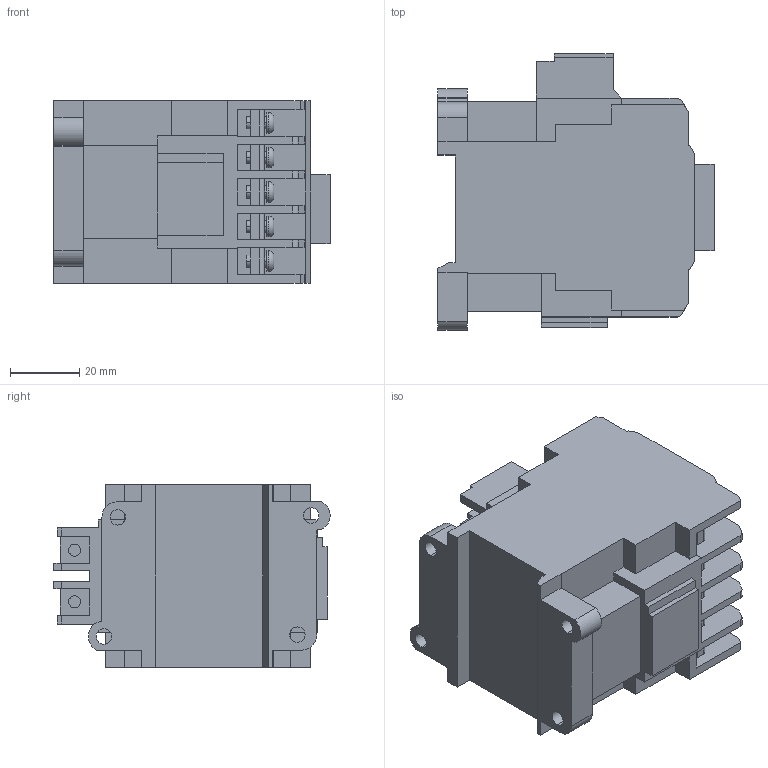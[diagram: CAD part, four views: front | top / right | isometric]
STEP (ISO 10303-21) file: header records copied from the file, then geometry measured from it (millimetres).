
FILE_DESCRIPTION( ( '' ), '1' );
FILE_NAME( 'E:/D&C電子外形図_3D/step/distribution/new_sc_neo_sc/mag/SC-05.stp', '2013-02-13T02:13:57', ( '' ), ( '' ), ' ', ' ', ' ' );
FILE_SCHEMA( ( 'automotive_design' ) );
Length unit declared in the file: millimetre
Products named in the file (25): 1; 2; 3; 4; 5; 6; 7; 8; 9; 10; 11; 12; 13; 14; 15; 16; 17; 18; 19; 20; 21; 22; 23; 24; 25
Bounding box: 80 x 79.98 x 53 mm (x, y, z)
Volume: 201463.1 mm3; surface area: 36724.7 mm2
Topology: 25 solids, 25 shells, 429 faces, 1098 edges, 732 vertices
Faces by surface type: plane 291, cylinder 114, torus 24
Entity records: 26250 total; most frequent: DIRECTION 2322, STYLED_ITEM 2284, PRESENTATION_STYLE_ASSIGNMENT 2284, CARTESIAN_POINT 2284, COLOUR_RGB 2284, ORIENTED_EDGE 2196, EDGE_CURVE 1098, CURVE_STYLE 1098
